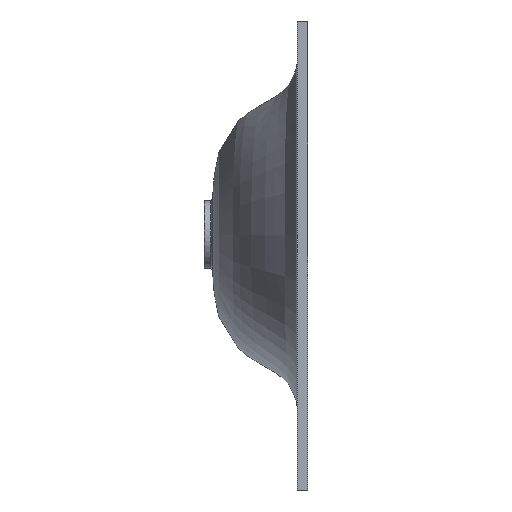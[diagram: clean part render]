
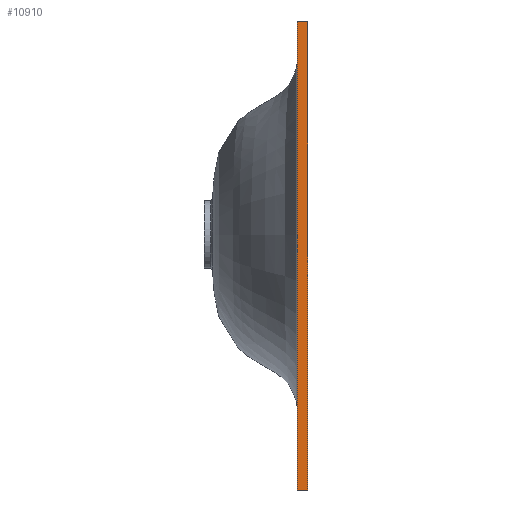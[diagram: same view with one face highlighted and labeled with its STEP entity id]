
A CAD part, left-side view. The second image highlights one B-rep face of the part: STEP entity #10910.
In plain terms, the highlighted planar face has unit normal (-1, 0, 0).
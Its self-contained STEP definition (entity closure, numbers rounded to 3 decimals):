
#1033 = CARTESIAN_POINT ( 'NONE',  ( -162640.974, 0., 250. ) ) ;
#2729 = CARTESIAN_POINT ( 'NONE',  ( -162640.974, 12., 0. ) ) ;
#4464 = VECTOR ( 'NONE', #50613, 1000. ) ;
#5863 = DIRECTION ( 'NONE',  ( 1., 0., 0. ) ) ;
#7367 = CARTESIAN_POINT ( 'NONE',  ( -162640.974, 0., 0. ) ) ;
#7455 = VERTEX_POINT ( 'NONE', #70044 ) ;
#9078 = VECTOR ( 'NONE', #63510, 1000. ) ;
#9269 = DIRECTION ( 'NONE',  ( 0., 0., -1. ) ) ;
#10910 = ADVANCED_FACE ( 'NONE', ( #44939 ), #15067, .F. ) ;
#11560 = LINE ( 'NONE', #61445, #4464 ) ;
#14683 = CARTESIAN_POINT ( 'NONE',  ( -162640.974, 12., -300. ) ) ;
#15067 = PLANE ( 'NONE',  #55238 ) ;
#18264 = VECTOR ( 'NONE', #29056, 1000. ) ;
#23030 = EDGE_LOOP ( 'NONE', ( #62796, #57018, #29506, #67533 ) ) ;
#25517 = VERTEX_POINT ( 'NONE', #27157 ) ;
#27157 = CARTESIAN_POINT ( 'NONE',  ( -162640.974, 0., -300. ) ) ;
#28986 = EDGE_CURVE ( 'NONE', #38959, #25517, #32257, .T. ) ;
#29056 = DIRECTION ( 'NONE',  ( 0., 0., 1. ) ) ;
#29506 = ORIENTED_EDGE ( 'NONE', *, *, #45355, .F. ) ;
#30564 = LINE ( 'NONE', #2729, #9078 ) ;
#32257 = LINE ( 'NONE', #54375, #49471 ) ;
#34292 = EDGE_CURVE ( 'NONE', #25517, #53412, #56218, .T. ) ;
#38959 = VERTEX_POINT ( 'NONE', #14683 ) ;
#44939 = FACE_OUTER_BOUND ( 'NONE', #23030, .T. ) ;
#45355 = EDGE_CURVE ( 'NONE', #38959, #7455, #30564, .T. ) ;
#49471 = VECTOR ( 'NONE', #71011, 1000. ) ;
#50613 = DIRECTION ( 'NONE',  ( 0., -1., 0. ) ) ;
#50672 = EDGE_CURVE ( 'NONE', #7455, #53412, #11560, .T. ) ;
#53412 = VERTEX_POINT ( 'NONE', #1033 ) ;
#54375 = CARTESIAN_POINT ( 'NONE',  ( -162640.974, 12., -300. ) ) ;
#55238 = AXIS2_PLACEMENT_3D ( 'NONE', #67008, #5863, #9269 ) ;
#56218 = LINE ( 'NONE', #7367, #18264 ) ;
#57018 = ORIENTED_EDGE ( 'NONE', *, *, #50672, .F. ) ;
#61445 = CARTESIAN_POINT ( 'NONE',  ( -162640.974, 12., 250. ) ) ;
#62796 = ORIENTED_EDGE ( 'NONE', *, *, #34292, .T. ) ;
#63510 = DIRECTION ( 'NONE',  ( 0., 0., 1. ) ) ;
#67008 = CARTESIAN_POINT ( 'NONE',  ( -162640.974, 12., 0. ) ) ;
#67533 = ORIENTED_EDGE ( 'NONE', *, *, #28986, .T. ) ;
#70044 = CARTESIAN_POINT ( 'NONE',  ( -162640.974, 12., 250. ) ) ;
#71011 = DIRECTION ( 'NONE',  ( 0., -1., 0. ) ) ;
